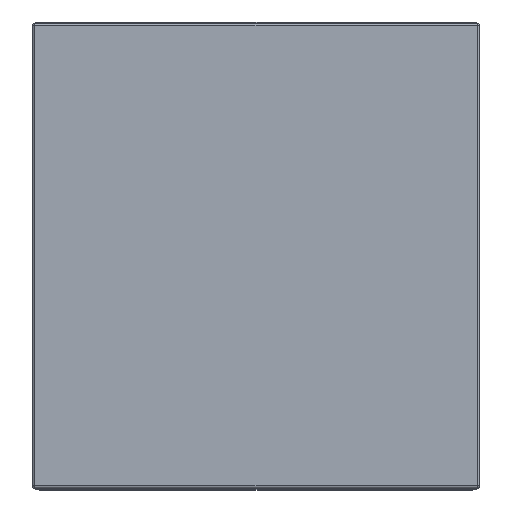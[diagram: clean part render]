
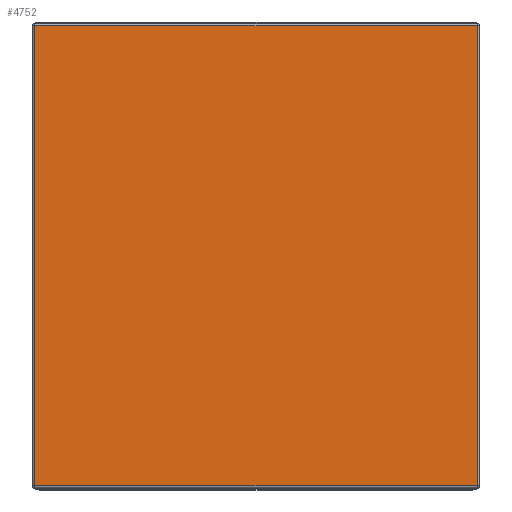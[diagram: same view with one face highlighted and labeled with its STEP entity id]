
A CAD part, top view. The second image highlights one B-rep face of the part: STEP entity #4752.
In plain terms, the highlighted planar face has unit normal (0, 0, 1).
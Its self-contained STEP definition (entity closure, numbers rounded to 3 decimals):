
#122 = DIRECTION ( 'NONE',  ( 0., 0., -1. ) ) ;
#535 = CARTESIAN_POINT ( 'NONE',  ( 286., -568., 100. ) ) ;
#639 = CARTESIAN_POINT ( 'NONE',  ( 340.212, 28., 100. ) ) ;
#672 = VECTOR ( 'NONE', #4422, 1000. ) ;
#949 = CARTESIAN_POINT ( 'NONE',  ( -286., -571., 100. ) ) ;
#1188 = LINE ( 'NONE', #4620, #4927 ) ;
#1247 = EDGE_CURVE ( 'NONE', #1499, #3630, #1679, .T. ) ;
#1365 = VERTEX_POINT ( 'NONE', #2579 ) ;
#1470 = CARTESIAN_POINT ( 'NONE',  ( 286., 30., 100. ) ) ;
#1478 = FACE_OUTER_BOUND ( 'NONE', #4423, .T. ) ;
#1499 = VERTEX_POINT ( 'NONE', #4141 ) ;
#1589 = EDGE_CURVE ( 'NONE', #1365, #1499, #2302, .T. ) ;
#1679 = LINE ( 'NONE', #949, #4150 ) ;
#1756 = ORIENTED_EDGE ( 'NONE', *, *, #2262, .T. ) ;
#1910 = ORIENTED_EDGE ( 'NONE', *, *, #1589, .T. ) ;
#1928 = EDGE_CURVE ( 'NONE', #5822, #1365, #3244, .T. ) ;
#2217 = PLANE ( 'NONE',  #5763 ) ;
#2262 = EDGE_CURVE ( 'NONE', #3630, #5822, #1188, .T. ) ;
#2302 = LINE ( 'NONE', #4671, #6018 ) ;
#2579 = CARTESIAN_POINT ( 'NONE',  ( 286., 27., 100. ) ) ;
#2663 = CARTESIAN_POINT ( 'NONE',  ( -286., -568., 100. ) ) ;
#3244 = LINE ( 'NONE', #1470, #672 ) ;
#3630 = VERTEX_POINT ( 'NONE', #2663 ) ;
#3716 = DIRECTION ( 'NONE',  ( -1., 0., 0. ) ) ;
#3961 = DIRECTION ( 'NONE',  ( 0., -1., 0. ) ) ;
#4141 = CARTESIAN_POINT ( 'NONE',  ( -286., 27., 100. ) ) ;
#4150 = VECTOR ( 'NONE', #3961, 1000. ) ;
#4155 = DIRECTION ( 'NONE',  ( 1., 0., 0. ) ) ;
#4422 = DIRECTION ( 'NONE',  ( 0., 1., 0. ) ) ;
#4423 = EDGE_LOOP ( 'NONE', ( #1756, #5552, #1910, #4514 ) ) ;
#4514 = ORIENTED_EDGE ( 'NONE', *, *, #1247, .T. ) ;
#4620 = CARTESIAN_POINT ( 'NONE',  ( 289., -568., 100. ) ) ;
#4671 = CARTESIAN_POINT ( 'NONE',  ( 340.212, 27., 100. ) ) ;
#4752 = ADVANCED_FACE ( 'NONE', ( #1478 ), #2217, .F. ) ;
#4927 = VECTOR ( 'NONE', #4155, 1000. ) ;
#5110 = DIRECTION ( 'NONE',  ( -1., 0., 0. ) ) ;
#5552 = ORIENTED_EDGE ( 'NONE', *, *, #1928, .T. ) ;
#5763 = AXIS2_PLACEMENT_3D ( 'NONE', #639, #122, #3716 ) ;
#5822 = VERTEX_POINT ( 'NONE', #535 ) ;
#6018 = VECTOR ( 'NONE', #5110, 1000. ) ;
